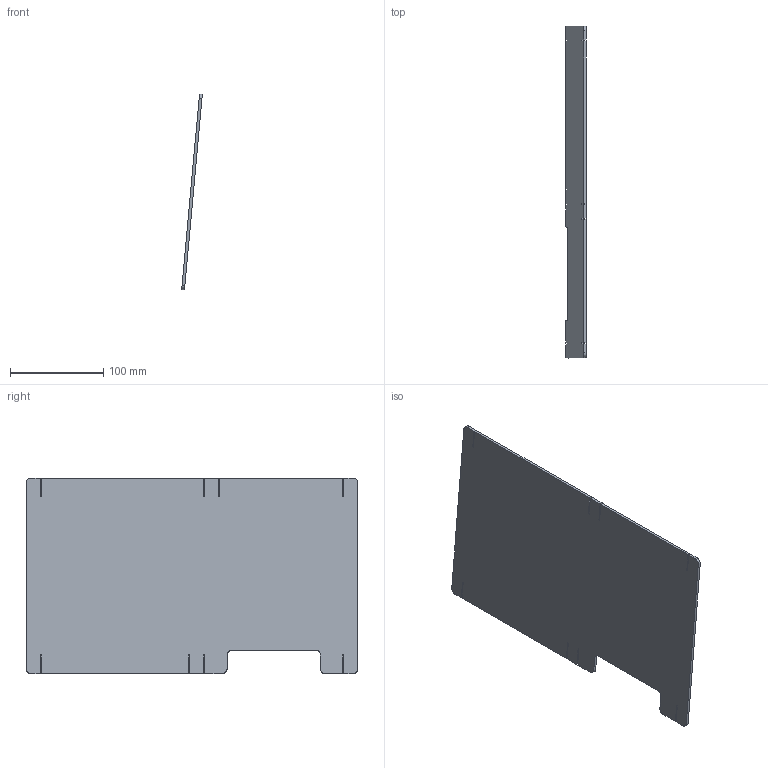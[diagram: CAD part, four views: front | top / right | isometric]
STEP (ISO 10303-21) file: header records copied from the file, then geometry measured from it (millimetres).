
FILE_DESCRIPTION(('CATIA V5 STEP Exchange'),'2;1');
FILE_NAME('C:\Users\Administrator\Desktop\桌面\安全带不回位靠背数据\靠背骨架\靠背板-20241122.stp','2024-11-22T08:14:20+00:00',('none'),('none'),'CATIA Version 5 Release 20 GA (IN-10)','CATIA V5 STEP AP203','none');
FILE_SCHEMA(('CONFIG_CONTROL_DESIGN'));
Length unit declared in the file: millimetre
Products named in the file (1): 靠背板
Bounding box: 22.11 x 355 x 209.4 mm (x, y, z)
Volume: 215605.6 mm3; surface area: 148185.6 mm2
Topology: 1 solids, 1 shells, 50 faces, 144 edges, 96 vertices
Faces by surface type: plane 42, cylinder 8
Entity records: 1555 total; most frequent: ORIENTED_EDGE 288, CARTESIAN_POINT 272, DIRECTION 206, EDGE_CURVE 144, VECTOR 128, LINE 128, VERTEX_POINT 96, ADVANCED_FACE 50
